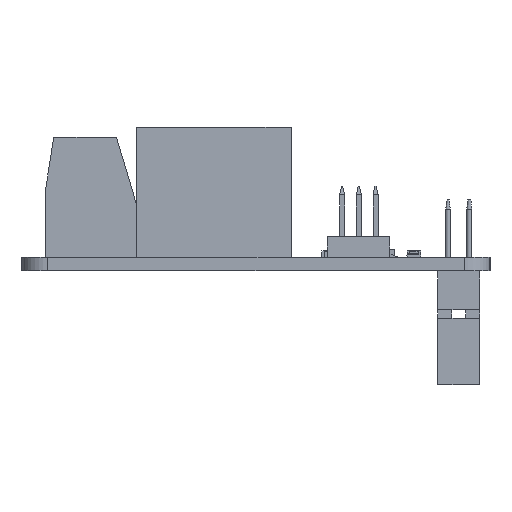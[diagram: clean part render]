
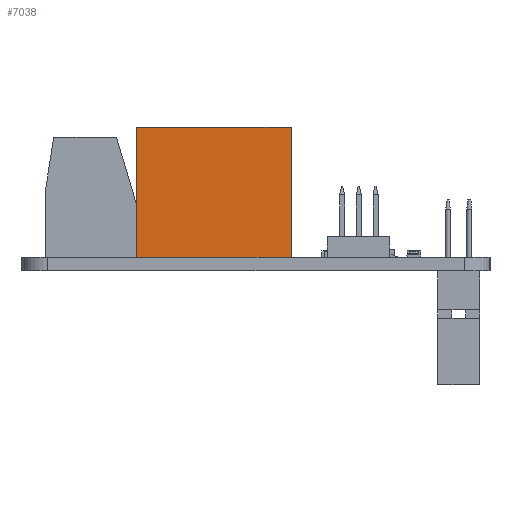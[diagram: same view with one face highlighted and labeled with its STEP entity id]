
A CAD part, left-side view. The second image highlights one B-rep face of the part: STEP entity #7038.
In plain terms, the highlighted planar face has unit normal (-1, 0, 0) as drawn and (0, -1, 0) by its records, which use the part's own axes.
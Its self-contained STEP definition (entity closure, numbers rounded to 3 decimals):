
#5528=PLANE('',#32337);
#7038=ADVANCED_FACE('',(#8594),#5528,.F.);
#8594=FACE_OUTER_BOUND('',#10492,.T.);
#10492=EDGE_LOOP('',(#17919,#17920,#17921,#17922));
#17919=ORIENTED_EDGE('',*,*,#24619,.T.);
#17920=ORIENTED_EDGE('',*,*,#24620,.F.);
#17921=ORIENTED_EDGE('',*,*,#24621,.F.);
#17922=ORIENTED_EDGE('',*,*,#24616,.T.);
#20984=VERTEX_POINT('',#58368);
#20985=VERTEX_POINT('',#58370);
#20987=VERTEX_POINT('',#58376);
#20988=VERTEX_POINT('',#58378);
#24616=EDGE_CURVE('',#20985,#20984,#27514,.T.);
#24619=EDGE_CURVE('',#20984,#20987,#27517,.T.);
#24620=EDGE_CURVE('',#20988,#20987,#27518,.T.);
#24621=EDGE_CURVE('',#20985,#20988,#27519,.T.);
#27514=LINE('',#58369,#30390);
#27517=LINE('',#58375,#30393);
#27518=LINE('',#58377,#30394);
#27519=LINE('',#58379,#30395);
#30390=VECTOR('',#38308,1.);
#30393=VECTOR('',#38313,1.);
#30394=VECTOR('',#38314,1.);
#30395=VECTOR('',#38315,1.);
#32337=AXIS2_PLACEMENT_3D('',#58380,#38316,#38317);
#38308=DIRECTION('',(0.,0.,-1.));
#38313=DIRECTION('',(1.,0.,0.));
#38314=DIRECTION('',(0.,0.,-1.));
#38315=DIRECTION('',(1.,0.,0.));
#38316=DIRECTION('',(0.,1.,0.));
#38317=DIRECTION('',(0.,0.,1.));
#58368=CARTESIAN_POINT('',(-9.25,-7.4,0.));
#58369=CARTESIAN_POINT('',(-9.25,-7.4,15.6));
#58370=CARTESIAN_POINT('',(-9.25,-7.4,15.6));
#58375=CARTESIAN_POINT('',(-9.25,-7.4,0.));
#58376=CARTESIAN_POINT('',(9.25,-7.4,0.));
#58377=CARTESIAN_POINT('',(9.25,-7.4,15.6));
#58378=CARTESIAN_POINT('',(9.25,-7.4,15.6));
#58379=CARTESIAN_POINT('',(-9.25,-7.4,15.6));
#58380=CARTESIAN_POINT('',(-9.25,-7.4,15.6));
